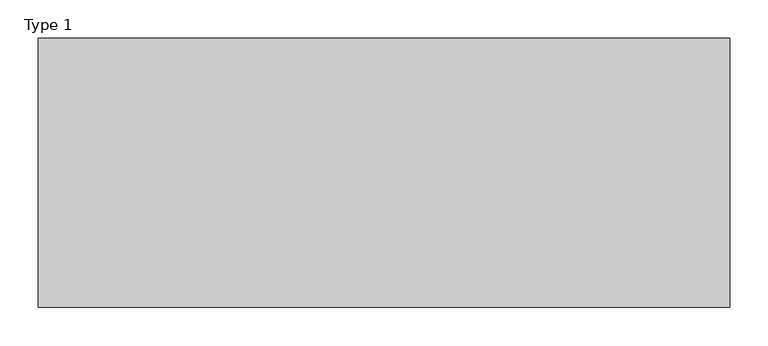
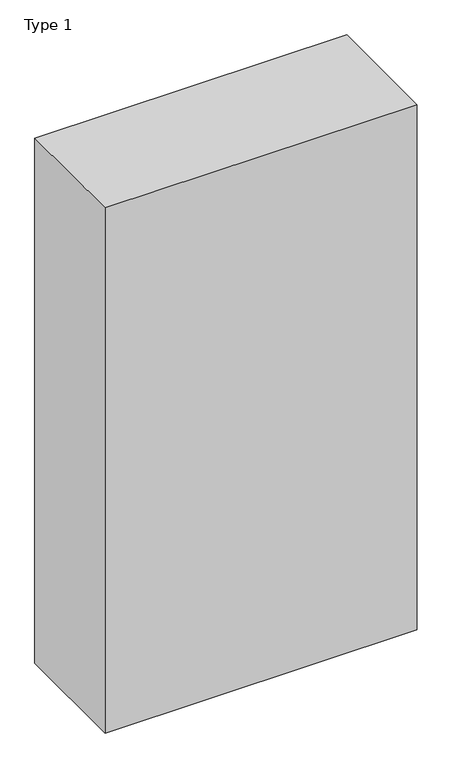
"""IFC4 building model written with IfcOpenShell, lengths in millimetres: flow terminal geometry, GABINETE-BASADOEN MURO : Type 1."""

from ifc_helpers import new_model, si_unit, frame, origin, place, context, project, spatial, polyline, outline, extrude, source, transform, mapped, element, save


def type_1_5bda6d84(model_context):
    return source(origin(), model_context, "Body", "SweptSolid", [
        extrude(outline(polyline([(575.0, 75.0), (575.0, -275.0), (-325.0, -275.0), (-325.0, 75.0), (575.0, 75.0)])), frame((0.0, 0.0, 200.0), z_axis=(0.0, 0.0, 1.0), x_axis=(1.0, 0.0, 0.0)), (0.0, 0.0, 1.0), 1600.0),
    ])


if __name__ == "__main__":
    model = new_model("IFC4")
    model_context = context("Model", 3, world=origin())
    ifc_project = project(units=[si_unit("LENGTHUNIT", "METRE", prefix="MILLI")], contexts=[model_context])
    site = spatial("IfcSite", under=ifc_project)
    building = spatial("IfcBuilding", under=site)
    placement = place(None, origin())
    type_1_shape = type_1_5bda6d84(model_context)
    element("IfcFlowTerminal", 1, ObjectType="GABINETE-BASADOEN MURO : Type 1", at=placement, inside=building, context=model_context, shape_type="MappedRepresentation", body=[
        mapped(type_1_shape, transform((0.0, 0.0, 0.0), x_axis=(1.0, 0.0, 0.0), y_axis=(0.0, 1.0, 0.0), z_axis=(0.0, 0.0, 1.0))),
    ])
    save(model, "model.ifc")
